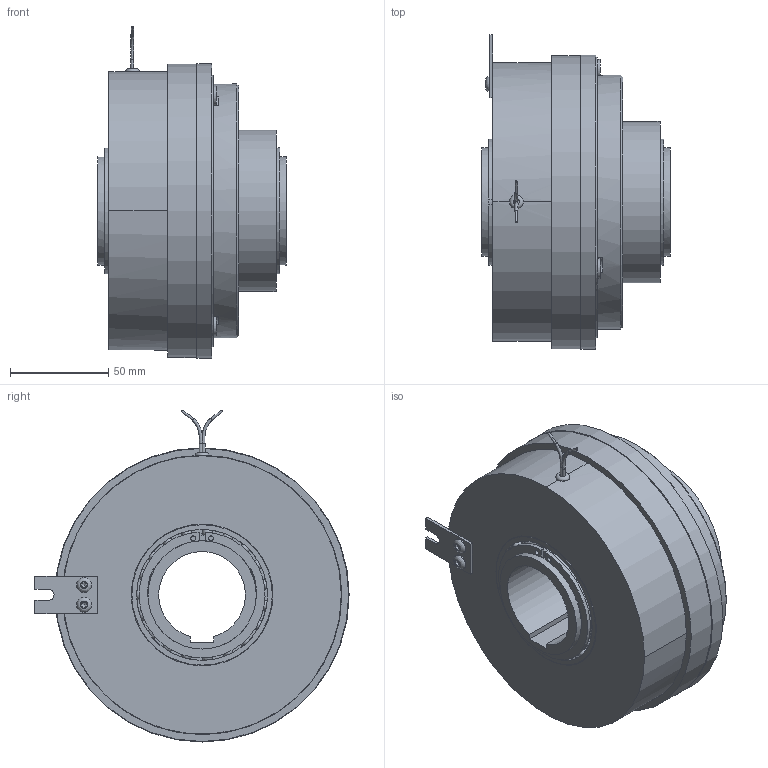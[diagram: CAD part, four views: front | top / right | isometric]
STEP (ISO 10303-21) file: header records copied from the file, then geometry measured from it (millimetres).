
FILE_DESCRIPTION(/* description */ (''),/* implementation_level */ '2;1');
FILE_NAME(/* name */ 'X:\INVENTOR\DISEGNI\08_Freni_Friz_Elettmag_Monodisco\08_26 EMSL_DF\EMSL_DF STEP\Tipo R\08_26_150_41 EMSL150_DF-R@STEP.stp',/* time_stamp */ '2019-02-06T08:46:07+01:00',/* author */ ('stefano'),/* organization */ (''),/* preprocessor_version */ 'ST-DEVELOPER v17',/* originating_system */ 'Autodesk Inventor 2018',/* authorisation */ '');
FILE_SCHEMA (('AUTOMOTIVE_DESIGN { 1 0 10303 214 3 1 1 }'));
Length unit declared in the file: millimetre
Products named in the file (1): 08_26_150_41 EMSL150_DF-R_Substitute_1
Bounding box: 96 x 159.75 x 168.72 mm (x, y, z)
Volume: 883636 mm3; surface area: 207191.6 mm2
Topology: 2 solids, 2 shells, 775 faces, 2888 edges, 1930 vertices
Faces by surface type: cylinder 250, torus 210, plane 197, sphere 95, cone 19, bspline 4
Full cylindrical faces by diameter (mm): 1.154 x2, 1.5 x1, 2.2 x3, 2.5 x4, 3 x4, 4.917 x6, 6 x1, 6.1 x6, 6.647 x3, 7.5 x3, 7.6 x2, 8 x3, 8.1 x3, 10 x6, 11 x3, 13 x3, 52 x2, 55 x6, 60 x1, 60.44 x10, 62 x2, 66.56 x10, 71.5 x1, 72 x8, 75 x2, 82 x1, 95 x1, 129 x1, 132 x1, 142 x1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
Entity records: 40298 total; most frequent: CARTESIAN_POINT 15802, ORIENTED_EDGE 5386, DIRECTION 4883, EDGE_CURVE 2693, AXIS2_PLACEMENT_3D 2220, VERTEX_POINT 1931, CIRCLE 1448, EDGE_LOOP 1093
